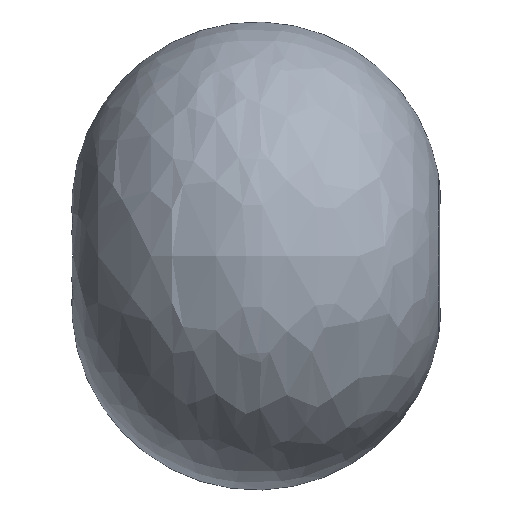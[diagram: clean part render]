
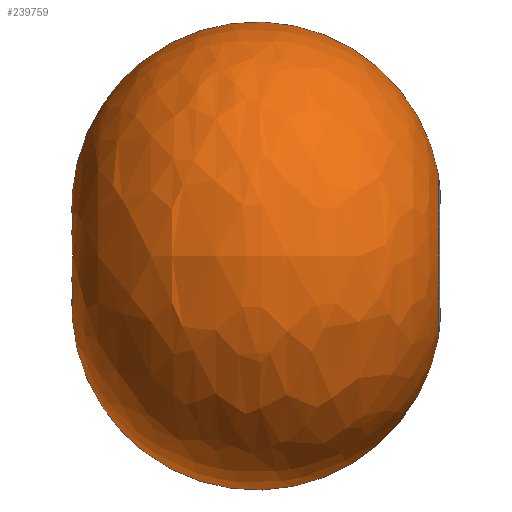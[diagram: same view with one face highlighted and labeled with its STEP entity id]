
A CAD part, left-side view. The second image highlights one B-rep face of the part: STEP entity #239759.
In plain terms, the highlighted free-form (B-spline) face has degree [3, 3] with [7, 4] control points.
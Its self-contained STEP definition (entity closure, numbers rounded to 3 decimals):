
#34024 = CARTESIAN_POINT ( 'NONE',  ( -2440.777, -2447.418, -1220.388 ) ) ;
#35606 = ORIENTED_EDGE ( 'NONE', *, *, #295449, .T. ) ;
#37368 = EDGE_CURVE ( 'NONE', #308632, #147882, #63029, .T. ) ;
#39066 = CIRCLE ( 'NONE', #371399, 2766.447 ) ;
#40523 =( BOUNDED_SURFACE ( )  B_SPLINE_SURFACE ( 3, 3, ( 
 ( #360528, #216291, #175012, #435915 ),
 ( #399162, #431213, #216551, #360785 ),
 ( #106103, #104530, #320853, #70876 ),
 ( #357618, #434355, #322400, #179745 ),
 ( #138159, #251915, #214959, #325541 ),
 ( #253503, #66159, #432764, #141296 ),
 ( #472792, #34024, #394488, #285577 ) ),
 .UNSPECIFIED., .F., .F., .F. ) 
 B_SPLINE_SURFACE_WITH_KNOTS ( ( 4, 3, 4 ),
 ( 4, 4 ),
 ( 0., 0.5, 1. ),
 ( 0., 1. ),
 .UNSPECIFIED. ) 
 GEOMETRIC_REPRESENTATION_ITEM ( )  RATIONAL_B_SPLINE_SURFACE ( (
 ( 1., 0.333, 0.333, 1.),
 ( 0.793, 0.264, 0.264, 0.793),
 ( 0.793, 0.264, 0.264, 0.793),
 ( 1., 0.333, 0.333, 1.),
 ( 0.793, 0.264, 0.264, 0.793),
 ( 0.793, 0.264, 0.264, 0.793),
 ( 1., 0.333, 0.333, 1.) ) ) 
 REPRESENTATION_ITEM ( '' )  SURFACE ( )  );
#63029 = CIRCLE ( 'NONE', #464939, 1220.388 ) ;
#64619 = FACE_OUTER_BOUND ( 'NONE', #124227, .T. ) ;
#66159 = CARTESIAN_POINT ( 'NONE',  ( -5755.795, -2155.155, -2877.898 ) ) ;
#70876 = CARTESIAN_POINT ( 'NONE',  ( 0., 2529.431, 3066.486 ) ) ;
#78163 = DIRECTION ( 'NONE',  ( 0., 0., 1. ) ) ;
#104530 = CARTESIAN_POINT ( 'NONE',  ( -6132.972, 2529.431, -3066.486 ) ) ;
#106103 = CARTESIAN_POINT ( 'NONE',  ( 0., 2529.431, -3066.486 ) ) ;
#116217 = ORIENTED_EDGE ( 'NONE', *, *, #214539, .F. ) ;
#124227 = EDGE_LOOP ( 'NONE', ( #116217, #35606, #233571 ) ) ;
#125688 = CARTESIAN_POINT ( 'NONE',  ( 0., -2447.418, 0. ) ) ;
#138159 = CARTESIAN_POINT ( 'NONE',  ( 0., -753.628, -3809.819 ) ) ;
#141296 = CARTESIAN_POINT ( 'NONE',  ( 0., -2155.155, 2877.898 ) ) ;
#143596 = CARTESIAN_POINT ( 'NONE',  ( 0., -2447.418, 1220.388 ) ) ;
#147882 = VERTEX_POINT ( 'NONE', #143596 ) ;
#155174 = VERTEX_POINT ( 'NONE', #182415 ) ;
#175012 = CARTESIAN_POINT ( 'NONE',  ( 0., 2942.638, 0. ) ) ;
#175701 = DIRECTION ( 'NONE',  ( 0., 0., -1. ) ) ;
#179745 = CARTESIAN_POINT ( 'NONE',  ( 0., 887.902, 3438.152 ) ) ;
#182415 = CARTESIAN_POINT ( 'NONE',  ( 0., 2942.638, 0. ) ) ;
#194564 = DIRECTION ( 'NONE',  ( 0., 1., 0. ) ) ;
#206212 = CARTESIAN_POINT ( 'NONE',  ( 0., 277., -740. ) ) ;
#214539 = EDGE_CURVE ( 'NONE', #155174, #147882, #39066, .T. ) ;
#214959 = CARTESIAN_POINT ( 'NONE',  ( -7619.638, -753.628, 3809.819 ) ) ;
#216291 = CARTESIAN_POINT ( 'NONE',  ( 0., 2942.638, 0. ) ) ;
#216551 = CARTESIAN_POINT ( 'NONE',  ( -3243.496, 3392.847, 1621.748 ) ) ;
#233571 = ORIENTED_EDGE ( 'NONE', *, *, #37368, .T. ) ;
#239759 = ADVANCED_FACE ( 'NONE', ( #64619 ), #40523, .T. ) ;
#251915 = CARTESIAN_POINT ( 'NONE',  ( -7619.638, -753.628, -3809.819 ) ) ;
#253503 = CARTESIAN_POINT ( 'NONE',  ( 0., -2155.155, -2877.898 ) ) ;
#257103 = CIRCLE ( 'NONE', #388112, 2766.447 ) ;
#285577 = CARTESIAN_POINT ( 'NONE',  ( 0., -2447.418, 1220.388 ) ) ;
#295449 = EDGE_CURVE ( 'NONE', #155174, #308632, #257103, .T. ) ;
#308632 = VERTEX_POINT ( 'NONE', #370282 ) ;
#320853 = CARTESIAN_POINT ( 'NONE',  ( -6132.972, 2529.431, 3066.486 ) ) ;
#322400 = CARTESIAN_POINT ( 'NONE',  ( -6876.305, 887.902, 3438.152 ) ) ;
#325541 = CARTESIAN_POINT ( 'NONE',  ( 0., -753.628, 3809.819 ) ) ;
#355176 = DIRECTION ( 'NONE',  ( -1., 0., 0. ) ) ;
#357618 = CARTESIAN_POINT ( 'NONE',  ( 0., 887.902, -3438.152 ) ) ;
#360528 = CARTESIAN_POINT ( 'NONE',  ( 0., 2942.638, 0. ) ) ;
#360785 = CARTESIAN_POINT ( 'NONE',  ( 0., 3392.847, 1621.748 ) ) ;
#366533 = DIRECTION ( 'NONE',  ( 1., 0., 0. ) ) ;
#370282 = CARTESIAN_POINT ( 'NONE',  ( 0., -2447.418, -1220.388 ) ) ;
#371399 = AXIS2_PLACEMENT_3D ( 'NONE', #408008, #366533, #78163 ) ;
#377204 = DIRECTION ( 'NONE',  ( 0., 0., 1. ) ) ;
#388112 = AXIS2_PLACEMENT_3D ( 'NONE', #206212, #355176, #175701 ) ;
#394488 = CARTESIAN_POINT ( 'NONE',  ( -2440.777, -2447.418, 1220.388 ) ) ;
#399162 = CARTESIAN_POINT ( 'NONE',  ( 0., 3392.847, -1621.748 ) ) ;
#408008 = CARTESIAN_POINT ( 'NONE',  ( 0., 277., 740. ) ) ;
#431213 = CARTESIAN_POINT ( 'NONE',  ( -3243.496, 3392.847, -1621.748 ) ) ;
#432764 = CARTESIAN_POINT ( 'NONE',  ( -5755.795, -2155.155, 2877.898 ) ) ;
#434355 = CARTESIAN_POINT ( 'NONE',  ( -6876.305, 887.902, -3438.152 ) ) ;
#435915 = CARTESIAN_POINT ( 'NONE',  ( 0., 2942.638, 0. ) ) ;
#464939 = AXIS2_PLACEMENT_3D ( 'NONE', #125688, #194564, #377204 ) ;
#472792 = CARTESIAN_POINT ( 'NONE',  ( 0., -2447.418, -1220.388 ) ) ;
